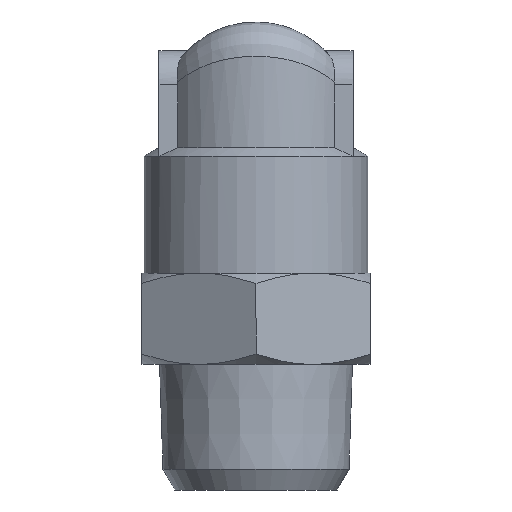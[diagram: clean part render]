
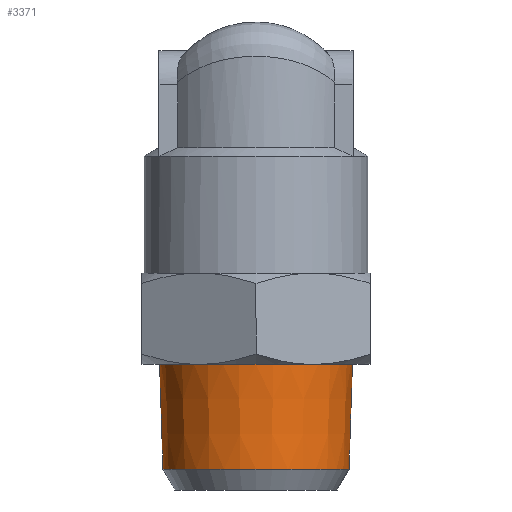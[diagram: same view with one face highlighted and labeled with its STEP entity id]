
A CAD part, left-side view. The second image highlights one B-rep face of the part: STEP entity #3371.
In plain terms, the highlighted conical face has half-angle 1.855 degrees and reference radius 8.447 mm.
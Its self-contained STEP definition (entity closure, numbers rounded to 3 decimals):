
#1786=CONICAL_SURFACE('',#3147,8.447,1.855);
#1817=ORIENTED_EDGE('',*,*,#2312,.F.);
#1818=ORIENTED_EDGE('',*,*,#2313,.F.);
#2133=CIRCLE('',#3148,8.149);
#2134=CIRCLE('',#3149,8.447);
#2202=VERTEX_POINT('',#3468);
#2203=VERTEX_POINT('',#3470);
#2312=EDGE_CURVE('',#2202,#2202,#2133,.T.);
#2313=EDGE_CURVE('',#2203,#2203,#2134,.T.);
#2470=EDGE_LOOP('',(#1817));
#2471=EDGE_LOOP('',(#1818));
#2596=FACE_BOUND('',#2470,.T.);
#2597=FACE_BOUND('',#2471,.T.);
#2726=DIRECTION('',(0.,1.,0.));
#2727=DIRECTION('',(0.,0.,1.));
#2728=DIRECTION('',(0.,-1.,0.));
#2729=DIRECTION('',(0.,0.,-8.149));
#2730=DIRECTION('',(0.,1.,0.));
#2731=DIRECTION('',(0.,0.,8.447));
#3147=AXIS2_PLACEMENT_3D('',#3467,#2726,#2727);
#3148=AXIS2_PLACEMENT_3D('',#3469,#2728,#2729);
#3149=AXIS2_PLACEMENT_3D('',#3471,#2730,#2731);
#3371=ADVANCED_FACE('',(#2596,#2597),#1786,.T.);
#3467=CARTESIAN_POINT('',(23.803,19.023,0.));
#3468=CARTESIAN_POINT('',(23.803,9.827,-8.149));
#3469=CARTESIAN_POINT('',(23.803,9.827,0.));
#3470=CARTESIAN_POINT('',(23.803,19.023,8.447));
#3471=CARTESIAN_POINT('',(23.803,19.023,0.));
